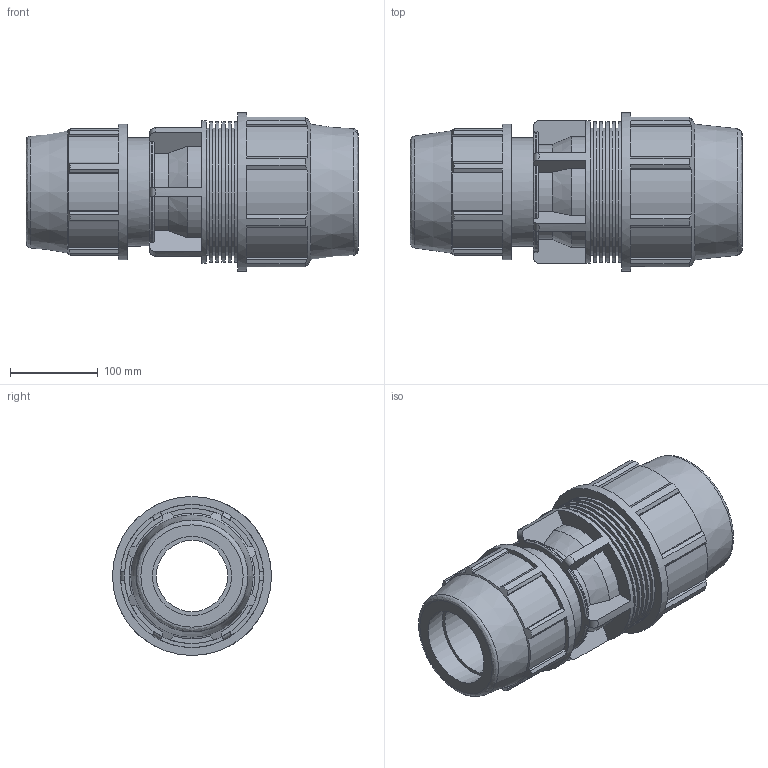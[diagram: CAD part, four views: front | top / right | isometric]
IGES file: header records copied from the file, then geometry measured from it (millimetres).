
Global section: file name: 0711061100900A.ipt; native system: Autodesk Inventor 2015; preprocessor: unknown; author: KIM; date: 20170608.042515; units: millimetre
Bounding box: 378 x 181 x 181 mm (x, y, z)
Volume: 3423993.8 mm3; surface area: 405786.2 mm2
Topology: 1 solids, 1 shells, 207 faces, 580 edges, 392 vertices
Faces by surface type: plane 123, cylinder 54, revolution 20, cone 10
Full cylindrical faces by diameter (mm): 123.2 x1, 144.8 x5, 154 x1, 159.642 x5, 162.9 x1, 181 x1
